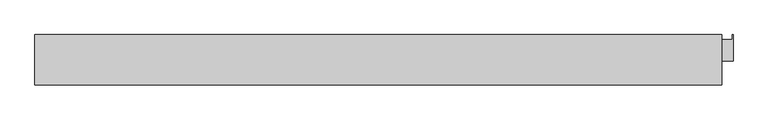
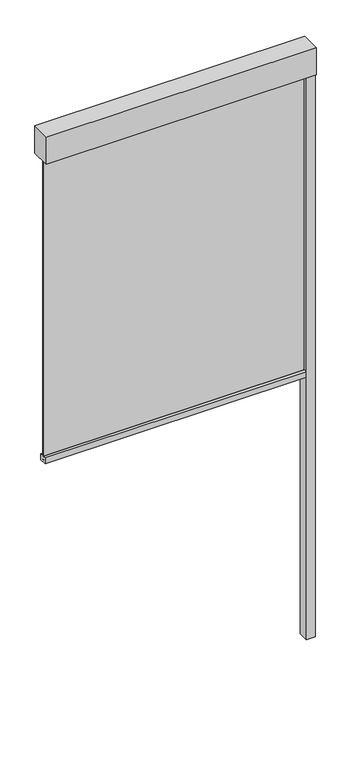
"""IFC4 building model written with IfcOpenShell, lengths in millimetres: proxy geometry, Renson_Fixscreen_Minimal_CW50_Reynaers_Middle : For Reynaers curtain wall - Middle element - Access downwards - Fabric close to the window."""

from ifc_helpers import new_model, si_unit, point, frame, frame_2d, origin, origin_with_axes, place, context, project, spatial, polyline, circle_curve, trimmed, segment, composite_curve, outline, extrude, source, transform, mapped, element, save


def generic_models_83925ee7(model_context):
    return source(origin(), model_context, "Body", "SweptSolid", [
        extrude(outline(polyline([(530.0, -751.4959909), (480.0, -751.4959909), (480.0, -693.5959909), (482.0275515, -693.5959909), (482.0275515, -703.7336963), (527.9813485, -703.7336963), (527.9813485, -693.5959909), (530.0, -693.5959909), (530.0, -751.4959909)])), origin_with_axes(), (0.0, 0.0, 1.0), 3340.0),
        extrude(outline(polyline([(-995.0, -693.5959909), (505.0, -693.5959909), (505.0, -803.5959909), (-995.0, -803.5959909), (-995.0, -693.5959909)])), frame((0.0, 0.0, 3340.0), z_axis=(0.0, 0.0, 1.0), x_axis=(1.0, 0.0, 0.0)), (0.0, 0.0, 1.0), 160.0),
        extrude(outline(composite_curve([segment(polyline([(-708.5959909, 1540.0), (-749.0958874, 1540.0), (-749.0958874, 1574.1156826), (-731.9717779, 1575.0000198)]), True, "CONTINUOUS"), segment(trimmed(circle_curve(frame_2d((-731.9459909, 1574.5006852)), 0.5), [point((-731.9717779, 1575.0000198))], [point((-731.4459909, 1574.5006852))], False, "CARTESIAN"), True, "CONTINUOUS"), segment(polyline([(-731.4459909, 1574.5006852), (-731.4459909, 1573.5367989), (-732.7111292, 1573.5367989), (-731.9708257, 1569.0119223)]), True, "CONTINUOUS"), segment(trimmed(circle_curve(frame_2d((-771.4459909, 1562.5534911)), 40.0), [point((-731.9708257, 1569.0119223))], [point((-731.4459909, 1562.5534911))], False, "CARTESIAN"), True, "CONTINUOUS"), segment(polyline([(-731.4459909, 1562.5534911), (-731.4459909, 1554.5006852)]), True, "CONTINUOUS"), segment(trimmed(circle_curve(frame_2d((-729.4459909, 1554.5006852)), 2.0), [point((-731.4459909, 1554.5006852))], [point((-729.4459909, 1552.5006852))], True, "CARTESIAN"), True, "CONTINUOUS"), segment(polyline([(-729.4459909, 1552.5006852), (-727.7459909, 1552.5006852)]), True, "CONTINUOUS"), segment(trimmed(circle_curve(frame_2d((-727.7459909, 1554.5006852)), 2.0), [point((-727.7459909, 1552.5006852))], [point((-725.7459909, 1554.5006852))], True, "CARTESIAN"), True, "CONTINUOUS"), segment(polyline([(-725.7459909, 1554.5006852), (-725.7459909, 1562.5534911)]), True, "CONTINUOUS"), segment(trimmed(circle_curve(frame_2d((-685.7459909, 1562.5534911)), 40.0), [point((-725.7459909, 1562.5534911))], [point((-725.221156, 1569.0119223))], False, "CARTESIAN"), True, "CONTINUOUS"), segment(polyline([(-725.221156, 1569.0119223), (-724.4808525, 1573.5367989), (-725.7459909, 1573.5367989), (-725.7459909, 1574.5006852)]), True, "CONTINUOUS"), segment(trimmed(circle_curve(frame_2d((-725.2459909, 1574.5006852)), 0.5), [point((-725.7459909, 1574.5006852))], [point((-725.2194276, 1574.9999791))], False, "CARTESIAN"), True, "CONTINUOUS"), segment(polyline([(-725.2194276, 1574.9999791), (-708.5959909, 1574.1156826), (-708.5959909, 1540.0)]), True, "CONTINUOUS")], self_intersect=False)), frame((-970.0, 0.0, 0.0), z_axis=(1.0, 0.0, 0.0), x_axis=(0.0, 1.0, 0.0)), (0.0, 0.0, 1.0), 1450.0),
        extrude(outline(polyline([(-970.0, -730.0959909), (-970.0, -727.0959909), (480.0, -727.0959909), (480.0, -730.0959909), (-970.0, -730.0959909)])), frame((0.0, 0.0, 1552.5006852), z_axis=(0.0, 0.0, 1.0), x_axis=(1.0, 0.0, 0.0)), (0.0, 0.0, 1.0), 1787.4993148),
    ])


if __name__ == "__main__":
    model = new_model("IFC4")
    model_context = context("Model", 3, world=origin())
    ifc_project = project(units=[si_unit("LENGTHUNIT", "METRE", prefix="MILLI")], contexts=[model_context])
    site = spatial("IfcSite", under=ifc_project)
    building = spatial("IfcBuilding", under=site)
    placement = place(None, origin())
    generic_models_shape = generic_models_83925ee7(model_context)
    element("IfcBuildingElementProxy", 1, Name="Renson_Fixscreen_Minimal_CW50_Reynaers_Middle : For Reynaers curtain wall - Middle element - Access downwards - Fabric close to the window", ObjectType="Renson_Fixscreen_Minimal_CW50_Reynaers_Middle : For Reynaers curtain wall - Middle element - Access downwards - Fabric close to the window", at=placement, inside=building, context=model_context, shape_type="MappedRepresentation", body=[
        mapped(generic_models_shape, transform((0.0, 0.0, 0.0), x_axis=(1.0, 0.0, 0.0), y_axis=(0.0, 1.0, 0.0), z_axis=(0.0, 0.0, 1.0))),
    ])
    save(model, "model.ifc")
